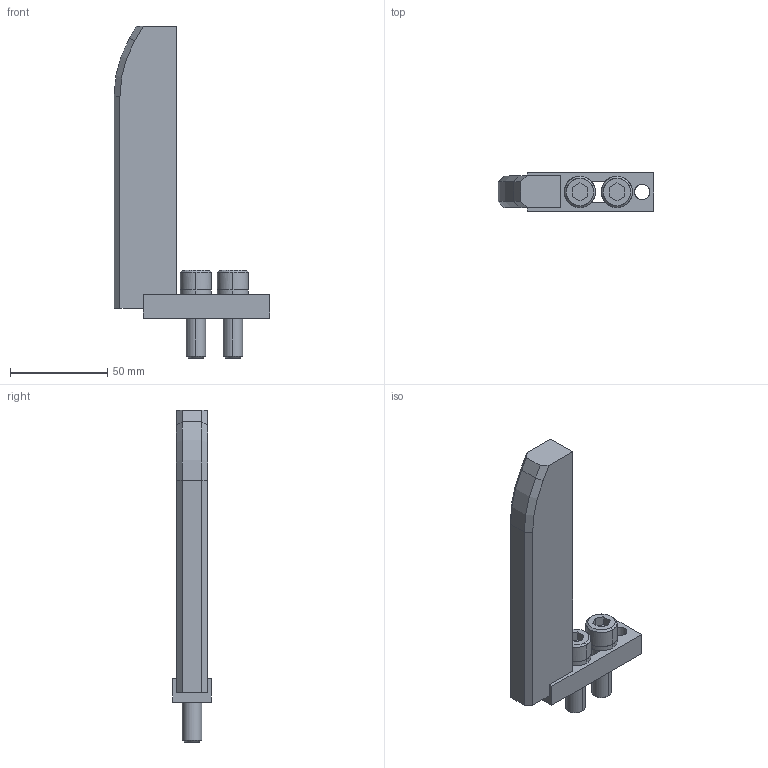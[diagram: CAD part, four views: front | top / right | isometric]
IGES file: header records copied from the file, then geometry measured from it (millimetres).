
Global section: file name: E:\UnigraphicsGraphicData\MISUMI_PRESS-PARTS\IGES\3d_enstd150-20-m10_01446_r00.igs; native system: NX V5.0; preprocessor: UGS NX IGES V5.0; author: MISUMI; date: 20110105.160628; units: millimetre
Bounding box: 80 x 20 x 170.5 mm (x, y, z)
Surface area: 23157.4 mm2 (no closed solid volume)
Topology: 0 solids, 0 shells, 74 faces, 456 edges, 456 vertices
Faces by surface type: bspline 74
